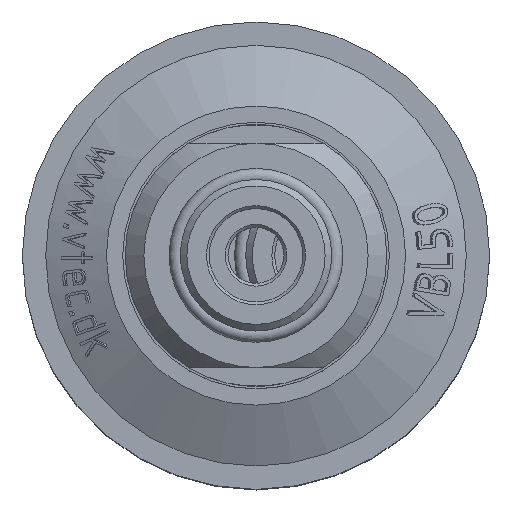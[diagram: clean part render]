
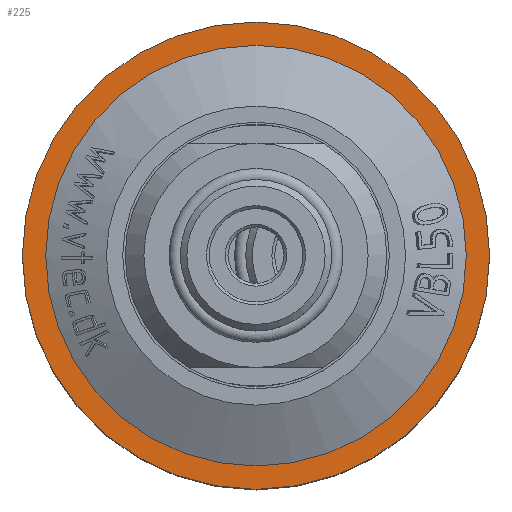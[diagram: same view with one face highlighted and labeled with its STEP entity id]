
A CAD part, top view. The second image highlights one B-rep face of the part: STEP entity #225.
In plain terms, the highlighted planar face has unit normal (0, 0, 1).
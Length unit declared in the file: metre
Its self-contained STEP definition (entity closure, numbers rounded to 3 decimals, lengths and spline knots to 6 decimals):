
#225 = ADVANCED_FACE( '', ( #535, #536 ), #537, .F. );
#535 = FACE_OUTER_BOUND( '', #2782, .T. );
#536 = FACE_BOUND( '', #2783, .T. );
#537 = PLANE( '', #2784 );
#2782 = EDGE_LOOP( '', ( #6636 ) );
#2783 = EDGE_LOOP( '', ( #6637 ) );
#2784 = AXIS2_PLACEMENT_3D( '', #6638, #6639, #6640 );
#6636 = ORIENTED_EDGE( '', *, *, #7758, .F. );
#6637 = ORIENTED_EDGE( '', *, *, #7601, .T. );
#6638 = CARTESIAN_POINT( '', ( -0.0225, 0., 0.0145 ) );
#6639 = DIRECTION( '', ( 0., 0., -1. ) );
#6640 = DIRECTION( '', ( -1., 0., 0. ) );
#7601 = EDGE_CURVE( '', #8144, #8144, #8145, .T. );
#7758 = EDGE_CURVE( '', #8421, #8421, #8422, .T. );
#8144 = VERTEX_POINT( '', #9417 );
#8145 = CIRCLE( '', #9418, 0.0225 );
#8421 = VERTEX_POINT( '', #10780 );
#8422 = CIRCLE( '', #10781, 0.025 );
#9417 = CARTESIAN_POINT( '', ( -0.0225, 0., 0.0145 ) );
#9418 = AXIS2_PLACEMENT_3D( '', #12048, #12049, #12050 );
#10780 = CARTESIAN_POINT( '', ( -0.025, 0., 0.0145 ) );
#10781 = AXIS2_PLACEMENT_3D( '', #12085, #12086, #12087 );
#12048 = CARTESIAN_POINT( '', ( 0., 0., 0.0145 ) );
#12049 = DIRECTION( '', ( 0., 0., -1. ) );
#12050 = DIRECTION( '', ( -1., 0., 0. ) );
#12085 = CARTESIAN_POINT( '', ( 0., 0., 0.0145 ) );
#12086 = DIRECTION( '', ( 0., 0., -1. ) );
#12087 = DIRECTION( '', ( -1., 0., 0. ) );
